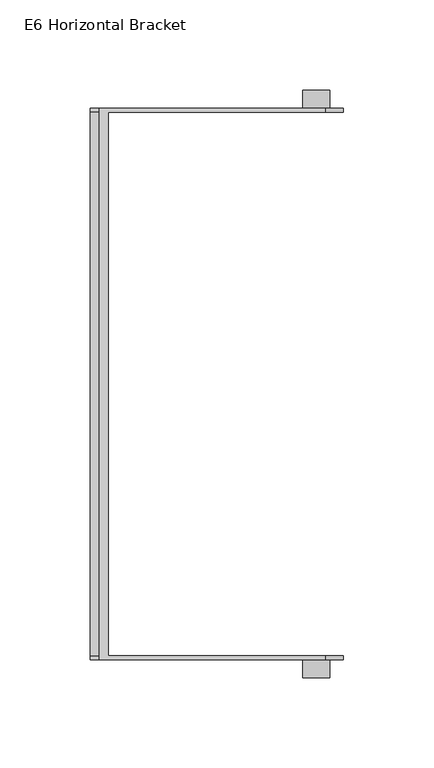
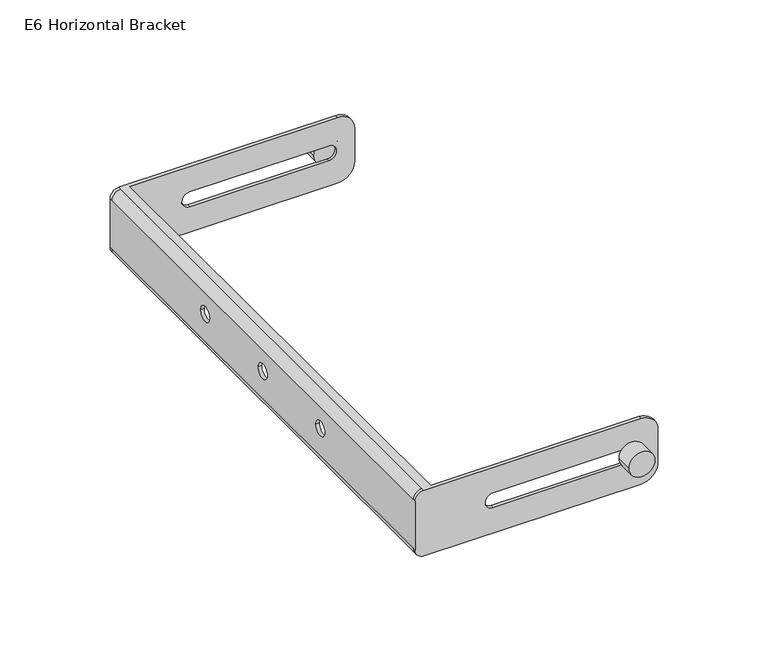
"""IFC4 building model written with IfcOpenShell, lengths in millimetres: proxy geometry, d&b E-Series E6 Horizontal Bracket : E6 Horizontal Bracket."""

from ifc_helpers import new_model, si_unit, point, frame, frame_2d, origin, place, context, project, spatial, polyline, circle_curve, trimmed, segment, composite_curve, outline, extrude, source, transform, mapped, element, save
from ifc_brep_helpers import plane_surface, cylinder_surface, revolved_surface, advanced_brep


def e6_horizontal_bracket_5e8173ac(model_context):
    return source(origin(), model_context, "Body", "SolidModel", [
        extrude(outline(composite_curve([segment(trimmed(circle_curve(frame_2d((30.6332032, -14.2844972)), 7.4551077), [point((30.6332032, -6.8293895))], [point((30.6332032, -21.7396049))], False, "CARTESIAN"), True, "CONTINUOUS"), segment(trimmed(circle_curve(frame_2d((30.6332032, -14.2844972)), 7.4551077), [point((30.6332032, -21.7396049))], [point((30.6332032, -6.8293895))], False, "CARTESIAN"), True, "CONTINUOUS")], self_intersect=False)), frame((0.0, -162.5, 0.0), z_axis=(0.0, 1.0, 0.0), x_axis=(0.0, 0.0, 1.0)), (0.0, 0.0, 1.0), 10.0),
        extrude(outline(composite_curve([segment(trimmed(circle_curve(frame_2d((30.6332032, -14.2844972)), 7.4551077), [point((30.6332032, -6.8293895))], [point((30.6332032, -21.7396049))], False, "CARTESIAN"), True, "CONTINUOUS"), segment(trimmed(circle_curve(frame_2d((30.6332032, -14.2844972)), 7.4551077), [point((30.6332032, -21.7396049))], [point((30.6332032, -6.8293895))], False, "CARTESIAN"), True, "CONTINUOUS")], self_intersect=False)), frame((0.0, 152.5, 0.0), z_axis=(0.0, 1.0, 0.0), x_axis=(0.0, 0.0, 1.0)), (0.0, 0.0, 1.0), 10.0),
        advanced_brep(
        [(-134.2844972, 150.5, 10.6332032), (-134.2844972, -150.5, 10.6332032), (-139.2844972, -150.5, 15.6332032), (-139.2844972, 150.5, 15.6332032), (-134.2844972, 152.5, 10.6332032), (-9.2844972, 152.5, 10.6332032), (-9.2844972, 150.5, 10.6332032), (-129.2844972, 150.5, 10.6332032), (-129.2844972, -150.5, 10.6332032), (-9.2844972, -150.5, 10.6332032), (-9.2844972, -152.5, 10.6332032), (-134.2844972, -152.5, 10.6332032), (-129.2844972, 150.5, 12.6332032), (-129.2844972, -150.5, 12.6332032), (-134.2844972, 150.5, 12.6332032), (-134.2844972, -150.5, 12.6332032), (-135.2844972, 150.5, 12.6332032), (-135.2844972, -150.5, 12.6332032), (-137.2844972, 150.5, 14.6332032), (-137.2844972, -150.5, 14.6332032), (-137.2844972, 150.5, 46.6332032), (-137.2844972, -150.5, 46.6332032), (-137.2844972, -53.0512492, 32.6731161), (-137.2844972, -61.9930622, 32.6731161), (-137.2844972, 4.5115117, 32.6482929), (-137.2844972, -4.5115117, 32.6482929), (-137.2844972, 61.9930622, 32.6731161), (-137.2844972, 53.0512492, 32.6731161), (-135.2844972, 150.5, 48.6332032), (-135.2844972, -150.5, 48.6332032), (-134.2844972, 150.5, 48.6332032), (-134.2844972, -150.5, 48.6332032), (-129.2844972, 150.5, 48.6332032), (-129.2844972, -150.5, 48.6332032), (-129.2844972, 150.5, 50.6332032), (-129.2844972, -150.5, 50.6332032), (-9.2844972, 150.5, 50.6332032), (-9.2844972, 152.5, 50.6332032), (-134.2844972, 152.5, 50.6332032), (-134.2844972, 150.5, 50.6332032), (-134.2844972, -150.5, 50.6332032), (-134.2844972, -152.5, 50.6332032), (-9.2844972, -152.5, 50.6332032), (-9.2844972, -150.5, 50.6332032), (-139.2844972, 150.5, 45.6332032), (-139.2844972, -150.5, 45.6332032), (0.7155028, 150.5, 20.6332032), (0.7155028, 150.5, 40.6332032), (-94.2844972, 150.5, 35.1332032), (-14.2844972, 150.5, 35.1332032), (-14.2844972, 150.5, 26.1332032), (-94.2844972, 150.5, 26.1332032), (-139.2844972, 152.5, 15.6332032), (-139.2844972, 152.5, 45.6332032), (0.7155028, 152.5, 40.6332032), (0.7155028, 152.5, 20.6332032), (-94.2844972, 152.5, 35.1332032), (-94.2844972, 152.5, 26.1332032), (-14.2844972, 152.5, 26.1332032), (-14.2844972, 152.5, 35.1332032), (-139.2844972, -152.5, 15.6332032), (-139.2844972, -152.5, 45.6332032), (-139.2844972, -53.0512492, 32.6731161), (-139.2844972, -61.9930622, 32.6731161), (-139.2844972, 4.5115117, 32.6482929), (-139.2844972, -4.5115117, 32.6482929), (-139.2844972, 61.9930622, 32.6731161), (-139.2844972, 53.0512492, 32.6731161), (0.7155028, -152.5, 20.6332032), (0.7155028, -152.5, 40.6332032), (-94.2844972, -152.5, 35.1332032), (-14.2844972, -152.5, 35.1332032), (-14.2844972, -152.5, 26.1332032), (-94.2844972, -152.5, 26.1332032), (0.7155028, -150.5, 40.6332032), (0.7155028, -150.5, 20.6332032), (-94.2844972, -150.5, 35.1332032), (-94.2844972, -150.5, 26.1332032), (-14.2844972, -150.5, 26.1332032), (-14.2844972, -150.5, 35.1332032)],
        [
            (0, 1),
            (1, 2, circle_curve(frame((-134.2844972, -150.5, 15.6332032), z_axis=(0.0, 1.0, 0.0), x_axis=(-1.0, 0.0, 0.0)), 5.0)),
            (2, 3),
            (3, 0, circle_curve(frame((-134.2844972, 150.5, 15.6332032), z_axis=(0.0, -1.0, 0.0), x_axis=(-1.0, 0.0, 0.0)), 5.0)),
            (0, 4),
            (4, 5),
            (5, 6),
            (6, 7),
            (7, 8),
            (8, 9),
            (9, 10),
            (10, 11),
            (11, 1),
            (7, 12),
            (12, 13),
            (13, 8),
            (12, 14),
            (14, 15),
            (15, 13),
            (14, 16),
            (16, 17),
            (17, 15),
            (16, 18, circle_curve(frame((-135.2844972, 150.5, 14.6332032), z_axis=(0.0, 1.0, 0.0), x_axis=(-1.0, 0.0, 0.0)), 2.0)),
            (18, 19),
            (19, 17, circle_curve(frame((-135.2844972, -150.5, 14.6332032), z_axis=(0.0, -1.0, 0.0), x_axis=(-1.0, 0.0, 0.0)), 2.0)),
            (18, 20),
            (20, 21),
            (21, 19),
            (22, 23, circle_curve(frame((-137.2844972, -57.5221557, 32.6731161), z_axis=(-1.0, 0.0, 0.0), x_axis=(0.0, -1.0, 0.0)), 4.4709065)),
            (23, 22, circle_curve(frame((-137.2844972, -57.5221557, 32.6731161), z_axis=(-1.0, 0.0, 0.0), x_axis=(0.0, -1.0, 0.0)), 4.4709065)),
            (24, 25, circle_curve(frame((-137.2844972, 0.0, 32.6482929), z_axis=(-1.0, 0.0, 0.0), x_axis=(0.0, -1.0, 0.0)), 4.5115117)),
            (25, 24, circle_curve(frame((-137.2844972, 0.0, 32.6482929), z_axis=(-1.0, 0.0, 0.0), x_axis=(0.0, -1.0, 0.0)), 4.5115117)),
            (26, 27, circle_curve(frame((-137.2844972, 57.5221557, 32.6731161), z_axis=(-1.0, 0.0, 0.0), x_axis=(0.0, -1.0, 0.0)), 4.4709065)),
            (27, 26, circle_curve(frame((-137.2844972, 57.5221557, 32.6731161), z_axis=(-1.0, 0.0, 0.0), x_axis=(0.0, -1.0, 0.0)), 4.4709065)),
            (20, 28, circle_curve(frame((-135.2844972, 150.5, 46.6332032), z_axis=(0.0, 1.0, 0.0), x_axis=(-1.0, 0.0, 0.0)), 2.0)),
            (28, 29),
            (29, 21, circle_curve(frame((-135.2844972, -150.5, 46.6332032), z_axis=(0.0, -1.0, 0.0), x_axis=(-1.0, 0.0, 0.0)), 2.0)),
            (28, 30),
            (30, 31),
            (31, 29),
            (30, 32),
            (32, 33),
            (33, 31),
            (32, 34),
            (34, 35),
            (35, 33),
            (34, 36),
            (36, 37),
            (37, 38),
            (38, 39),
            (39, 40),
            (40, 41),
            (41, 42),
            (42, 43),
            (43, 35),
            (39, 44, circle_curve(frame((-134.2844972, 150.5, 45.6332032), z_axis=(0.0, -1.0, 0.0), x_axis=(-1.0, 0.0, 0.0)), 5.0)),
            (44, 45),
            (45, 40, circle_curve(frame((-134.2844972, -150.5, 45.6332032), z_axis=(0.0, 1.0, 0.0), x_axis=(-1.0, 0.0, 0.0)), 5.0)),
            (6, 46, circle_curve(frame((-9.2844972, 150.5, 20.6332032), z_axis=(0.0, -1.0, 0.0), x_axis=(-1.0, 0.0, 0.0)), 10.0)),
            (46, 47),
            (47, 36, circle_curve(frame((-9.2844972, 150.5, 40.6332032), z_axis=(0.0, -1.0, 0.0), x_axis=(-1.0, 0.0, 0.0)), 10.0)),
            (48, 49),
            (49, 50, circle_curve(frame((-14.2844972, 150.5, 30.6332032), z_axis=(0.0, 1.0, 0.0), x_axis=(-1.0, 0.0, 0.0)), 4.5)),
            (50, 51),
            (51, 48, circle_curve(frame((-94.2844972, 150.5, 30.6332032), z_axis=(0.0, 1.0, 0.0), x_axis=(-1.0, 0.0, 0.0)), 4.5)),
            (4, 52, circle_curve(frame((-134.2844972, 152.5, 15.6332032), z_axis=(0.0, 1.0, 0.0), x_axis=(-1.0, 0.0, 0.0)), 5.0)),
            (52, 53),
            (53, 38, circle_curve(frame((-134.2844972, 152.5, 45.6332032), z_axis=(0.0, 1.0, 0.0), x_axis=(-1.0, 0.0, 0.0)), 5.0)),
            (37, 54, circle_curve(frame((-9.2844972, 152.5, 40.6332032), z_axis=(0.0, 1.0, 0.0), x_axis=(-1.0, 0.0, 0.0)), 10.0)),
            (54, 55),
            (55, 5, circle_curve(frame((-9.2844972, 152.5, 20.6332032), z_axis=(0.0, 1.0, 0.0), x_axis=(-1.0, 0.0, 0.0)), 10.0)),
            (56, 57, circle_curve(frame((-94.2844972, 152.5, 30.6332032), z_axis=(0.0, -1.0, 0.0), x_axis=(-1.0, 0.0, 0.0)), 4.5)),
            (57, 58),
            (58, 59, circle_curve(frame((-14.2844972, 152.5, 30.6332032), z_axis=(0.0, -1.0, 0.0), x_axis=(-1.0, 0.0, 0.0)), 4.5)),
            (59, 56),
            (55, 46),
            (54, 47),
            (48, 56),
            (59, 49),
            (58, 50),
            (57, 51),
            (53, 44),
            (3, 52),
            (2, 60),
            (60, 61),
            (61, 45),
            (62, 63, circle_curve(frame((-139.2844972, -57.5221557, 32.6731161), z_axis=(1.0, 0.0, 0.0), x_axis=(0.0, -1.0, 0.0)), 4.4709065)),
            (63, 62, circle_curve(frame((-139.2844972, -57.5221557, 32.6731161), z_axis=(1.0, 0.0, 0.0), x_axis=(0.0, -1.0, 0.0)), 4.4709065)),
            (64, 65, circle_curve(frame((-139.2844972, 0.0, 32.6482929), z_axis=(1.0, 0.0, 0.0), x_axis=(0.0, -1.0, 0.0)), 4.5115117)),
            (65, 64, circle_curve(frame((-139.2844972, 0.0, 32.6482929), z_axis=(1.0, 0.0, 0.0), x_axis=(0.0, -1.0, 0.0)), 4.5115117)),
            (66, 67, circle_curve(frame((-139.2844972, 57.5221557, 32.6731161), z_axis=(1.0, 0.0, 0.0), x_axis=(0.0, -1.0, 0.0)), 4.4709065)),
            (67, 66, circle_curve(frame((-139.2844972, 57.5221557, 32.6731161), z_axis=(1.0, 0.0, 0.0), x_axis=(0.0, -1.0, 0.0)), 4.4709065)),
            (62, 22),
            (23, 63),
            (64, 24),
            (25, 65),
            (66, 26),
            (27, 67),
            (10, 68, circle_curve(frame((-9.2844972, -152.5, 20.6332032), z_axis=(0.0, -1.0, 0.0), x_axis=(-1.0, 0.0, 0.0)), 10.0)),
            (68, 69),
            (69, 42, circle_curve(frame((-9.2844972, -152.5, 40.6332032), z_axis=(0.0, -1.0, 0.0), x_axis=(-1.0, 0.0, 0.0)), 10.0)),
            (41, 61, circle_curve(frame((-134.2844972, -152.5, 45.6332032), z_axis=(0.0, -1.0, 0.0), x_axis=(-1.0, 0.0, 0.0)), 5.0)),
            (60, 11, circle_curve(frame((-134.2844972, -152.5, 15.6332032), z_axis=(0.0, -1.0, 0.0), x_axis=(-1.0, 0.0, 0.0)), 5.0)),
            (70, 71),
            (71, 72, circle_curve(frame((-14.2844972, -152.5, 30.6332032), z_axis=(0.0, 1.0, 0.0), x_axis=(-1.0, 0.0, 0.0)), 4.5)),
            (72, 73),
            (73, 70, circle_curve(frame((-94.2844972, -152.5, 30.6332032), z_axis=(0.0, 1.0, 0.0), x_axis=(-1.0, 0.0, 0.0)), 4.5)),
            (43, 74, circle_curve(frame((-9.2844972, -150.5, 40.6332032), z_axis=(0.0, 1.0, 0.0), x_axis=(-1.0, 0.0, 0.0)), 10.0)),
            (74, 75),
            (75, 9, circle_curve(frame((-9.2844972, -150.5, 20.6332032), z_axis=(0.0, 1.0, 0.0), x_axis=(-1.0, 0.0, 0.0)), 10.0)),
            (76, 77, circle_curve(frame((-94.2844972, -150.5, 30.6332032), z_axis=(0.0, -1.0, 0.0), x_axis=(-1.0, 0.0, 0.0)), 4.5)),
            (77, 78),
            (78, 79, circle_curve(frame((-14.2844972, -150.5, 30.6332032), z_axis=(0.0, -1.0, 0.0), x_axis=(-1.0, 0.0, 0.0)), 4.5)),
            (79, 76),
            (75, 68),
            (74, 69),
            (70, 76),
            (79, 71),
            (78, 72),
            (77, 73),
        ],
        [
            cylinder_surface(frame((-134.2844972, 150.5, 15.6332032), z_axis=(0.0, -1.0, 0.0), x_axis=(-1.0, 0.0, 0.0)), 5.0),
            plane_surface(frame((-134.2844972, -150.5, 10.6332032), z_axis=(0.0, 0.0, -1.0), x_axis=(0.0, 1.0, 0.0))),
            plane_surface(frame((-129.2844972, -150.5, 10.6332032), z_axis=(1.0, 0.0, 0.0), x_axis=(0.0, 1.0, 0.0))),
            plane_surface(frame((-129.2844972, -150.5, 12.6332032), z_axis=(0.0, 0.0, 1.0), x_axis=(0.0, 1.0, 0.0))),
            plane_surface(frame((-134.2844972, -150.5, 12.6332032), z_axis=(0.0, 0.0, 1.0), x_axis=(0.0, 1.0, 0.0))),
            revolved_surface(polyline([(-137.2844972, 150.5, 14.6332032), (-137.2844972, -150.5, 14.6332032)]), (-135.2844972, 150.5, 14.6332032), (0.0, 1.0, 0.0)),
            plane_surface(frame((-137.2844972, -150.5, 14.6332032), z_axis=(1.0, 0.0, 0.0), x_axis=(0.0, 1.0, 0.0))),
            revolved_surface(polyline([(-137.2844972, 150.5, 46.6332032), (-137.2844972, -150.5, 46.6332032)]), (-135.2844972, 0.0, 46.6332032), (0.0, 1.0, 0.0)),
            plane_surface(frame((-135.2844972, -150.5, 48.6332032), z_axis=(0.0, 0.0, -1.0), x_axis=(0.0, 1.0, 0.0))),
            plane_surface(frame((-134.2844972, -150.5, 48.6332032), z_axis=(0.0, 0.0, -1.0), x_axis=(0.0, 1.0, 0.0))),
            plane_surface(frame((-129.2844972, -150.5, 48.6332032), z_axis=(1.0, 0.0, 0.0), x_axis=(0.0, 1.0, 0.0))),
            plane_surface(frame((-129.2844972, -150.5, 50.6332032), z_axis=(0.0, 0.0, 1.0), x_axis=(0.0, 1.0, 0.0))),
            cylinder_surface(frame((-134.2844972, 0.0, 45.6332032), z_axis=(0.0, -1.0, 0.0), x_axis=(-1.0, 0.0, 0.0)), 5.0),
            plane_surface(frame((-19.2844972, 150.5, 20.6332032), z_axis=(0.0, -1.0, 0.0), x_axis=(0.0, 0.0, -1.0))),
            plane_surface(frame((-19.2844972, 152.5, 20.6332032), z_axis=(0.0, 1.0, 0.0), x_axis=(0.0, 0.0, 1.0))),
            cylinder_surface(frame((-9.2844972, 152.5, 20.6332032), z_axis=(0.0, -1.0, 0.0), x_axis=(-1.0, 0.0, 0.0)), 10.0),
            plane_surface(frame((0.7155028, 150.5, 20.6332032), z_axis=(1.0, 0.0, 0.0), x_axis=(0.0, 1.0, 0.0))),
            cylinder_surface(frame((-9.2844972, 152.5, 40.6332032), z_axis=(0.0, -1.0, 0.0), x_axis=(-1.0, 0.0, 0.0)), 10.0),
            plane_surface(frame((-94.2844972, 150.5, 35.1332032), z_axis=(0.0, 0.0, -1.0), x_axis=(0.0, 1.0, 0.0))),
            revolved_surface(polyline([(-18.7844972, 152.5, 30.6332032), (-18.7844972, 150.5, 30.6332032)]), (-14.2844972, 0.0, 30.6332032), (0.0, 1.0, 0.0)),
            plane_surface(frame((-14.2844972, 150.5, 26.1332032), z_axis=(0.0, 0.0, 1.0), x_axis=(0.0, 1.0, 0.0))),
            revolved_surface(polyline([(-98.7844972, 152.5, 30.6332032), (-98.7844972, 150.5, 30.6332032)]), (-94.2844972, 0.0, 30.6332032), (0.0, 1.0, 0.0)),
            cylinder_surface(frame((-134.2844972, 152.5, 45.6332032), z_axis=(0.0, -1.0, 0.0), x_axis=(-1.0, 0.0, 0.0)), 5.0),
            cylinder_surface(frame((-134.2844972, 152.5, 15.6332032), z_axis=(0.0, -1.0, 0.0), x_axis=(-1.0, 0.0, 0.0)), 5.0),
            plane_surface(frame((-139.2844972, 150.5, 45.6332032), z_axis=(-1.0, 0.0, 0.0), x_axis=(0.0, 1.0, 0.0))),
            revolved_surface(polyline([(-137.2844972, -61.9930622, 32.6731161), (-139.2844972, -61.9930622, 32.6731161)]), (-139.2844972, -57.5221557, 32.6731161), (1.0, 0.0, 0.0)),
            revolved_surface(polyline([(-137.2844972, -4.5115117, 32.6482929), (-139.2844972, -4.5115117, 32.6482929)]), (-139.2844972, 0.0, 32.6482929), (1.0, 0.0, 0.0)),
            revolved_surface(polyline([(-137.2844972, 53.0512492, 32.6731161), (-139.2844972, 53.0512492, 32.6731161)]), (-139.2844972, 57.5221557, 32.6731161), (1.0, 0.0, 0.0)),
            plane_surface(frame((-19.2844972, -152.5, 20.6332032), z_axis=(0.0, -1.0, 0.0), x_axis=(0.0, 0.0, -1.0))),
            plane_surface(frame((-19.2844972, -150.5, 20.6332032), z_axis=(0.0, 1.0, 0.0), x_axis=(0.0, 0.0, 1.0))),
            cylinder_surface(frame((-9.2844972, -150.5, 20.6332032), z_axis=(0.0, -1.0, 0.0), x_axis=(-1.0, 0.0, 0.0)), 10.0),
            plane_surface(frame((0.7155028, -152.5, 20.6332032), z_axis=(1.0, 0.0, 0.0), x_axis=(0.0, 1.0, 0.0))),
            cylinder_surface(frame((-9.2844972, -150.5, 40.6332032), z_axis=(0.0, -1.0, 0.0), x_axis=(-1.0, 0.0, 0.0)), 10.0),
            plane_surface(frame((-94.2844972, -152.5, 35.1332032), z_axis=(0.0, 0.0, -1.0), x_axis=(0.0, 1.0, 0.0))),
            revolved_surface(polyline([(-18.7844972, -150.5, 30.6332032), (-18.7844972, -152.5, 30.6332032)]), (-14.2844972, 0.0, 30.6332032), (0.0, 1.0, 0.0)),
            plane_surface(frame((-14.2844972, -152.5, 26.1332032), z_axis=(0.0, 0.0, 1.0), x_axis=(0.0, 1.0, 0.0))),
            revolved_surface(polyline([(-98.7844972, -150.5, 30.6332032), (-98.7844972, -152.5, 30.6332032)]), (-94.2844972, 0.0, 30.6332032), (0.0, 1.0, 0.0)),
            cylinder_surface(frame((-134.2844972, -150.5, 45.6332032), z_axis=(0.0, -1.0, 0.0), x_axis=(-1.0, 0.0, 0.0)), 5.0),
            cylinder_surface(frame((-134.2844972, -150.5, 15.6332032), z_axis=(0.0, -1.0, 0.0), x_axis=(-1.0, 0.0, 0.0)), 5.0),
        ],
        [
            (0, [[1, 2, 3, 4]]),
            (1, [[-1, 5, 6, 7, 8, 9, 10, 11, 12, 13]]),
            (2, [[-9, 14, 15, 16]]),
            (3, [[-15, 17, 18, 19]]),
            (4, [[-18, 20, 21, 22]]),
            (5, [[-21, 23, 24, 25]]),
            (6, [[-24, 26, 27, 28], [29, 30], [31, 32], [33, 34]]),
            (7, [[-27, 35, 36, 37]]),
            (8, [[-36, 38, 39, 40]]),
            (9, [[-39, 41, 42, 43]]),
            (10, [[-42, 44, 45, 46]]),
            (11, [[-45, 47, 48, 49, 50, 51, 52, 53, 54, 55]]),
            (12, [[-51, 56, 57, 58]]),
            (13, [[59, 60, 61, -47, -44, -41, -38, -35, -26, -23, -20, -17, -14, -8], [62, 63, 64, 65]]),
            (14, [[-6, 66, 67, 68, -49, 69, 70, 71], [72, 73, 74, 75]]),
            (15, [[-59, -7, -71, 76]]),
            (16, [[-60, -76, -70, 77]]),
            (17, [[-61, -77, -69, -48]]),
            (18, [[-62, 78, -75, 79]]),
            (19, [[-63, -79, -74, 80]]),
            (20, [[-64, -80, -73, 81]]),
            (21, [[-65, -81, -72, -78]]),
            (22, [[-68, 82, -56, -50]]),
            (23, [[-66, -5, -4, 83]]),
            (24, [[-67, -83, -3, 84, 85, 86, -57, -82], [87, 88], [89, 90], [91, 92]]),
            (25, [[-87, 93, -30, 94]]),
            (25, [[-88, -94, -29, -93]]),
            (26, [[-89, 95, -32, 96]]),
            (26, [[-90, -96, -31, -95]]),
            (27, [[-91, 97, -34, 98]]),
            (27, [[-92, -98, -33, -97]]),
            (28, [[99, 100, 101, -53, 102, -85, 103, -12], [104, 105, 106, 107]]),
            (29, [[108, 109, 110, -10, -16, -19, -22, -25, -28, -37, -40, -43, -46, -55], [111, 112, 113, 114]]),
            (30, [[-99, -11, -110, 115]]),
            (31, [[-100, -115, -109, 116]]),
            (32, [[-101, -116, -108, -54]]),
            (33, [[-104, 117, -114, 118]]),
            (34, [[-105, -118, -113, 119]]),
            (35, [[-106, -119, -112, 120]]),
            (36, [[-107, -120, -111, -117]]),
            (37, [[-102, -52, -58, -86]]),
            (38, [[-103, -84, -2, -13]]),
        ],
    ),
    ])


if __name__ == "__main__":
    model = new_model("IFC4")
    model_context = context("Model", 3, world=origin())
    ifc_project = project(units=[si_unit("LENGTHUNIT", "METRE", prefix="MILLI")], contexts=[model_context])
    site = spatial("IfcSite", under=ifc_project)
    building = spatial("IfcBuilding", under=site)
    placement = place(None, origin())
    e6_horizontal_bracket_shape = e6_horizontal_bracket_5e8173ac(model_context)
    element("IfcBuildingElementProxy", 1, Name="d&b E-Series E6 Horizontal Bracket : E6 Horizontal Bracket", ObjectType="d&b E-Series E6 Horizontal Bracket : E6 Horizontal Bracket", at=placement, inside=building, context=model_context, shape_type="MappedRepresentation", body=[
        mapped(e6_horizontal_bracket_shape, transform((0.0, 0.0, 0.0), x_axis=(1.0, 0.0, 0.0), y_axis=(0.0, 1.0, 0.0), z_axis=(0.0, 0.0, 1.0))),
    ])
    save(model, "model.ifc")
